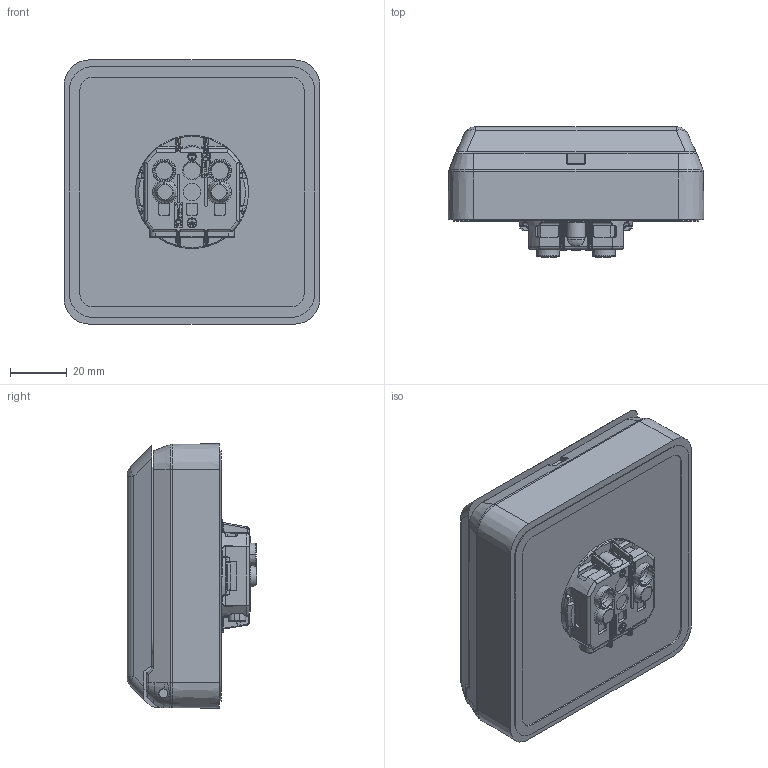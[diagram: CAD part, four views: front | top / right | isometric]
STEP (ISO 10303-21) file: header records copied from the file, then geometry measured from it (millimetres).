
FILE_DESCRIPTION((''),'2;1');
FILE_NAME('4971_DUMMY_SW0001','2018-08-24T',('Gisse'),('MENNEKES'),'PRO/ENGINEER BY PARAMETRIC TECHNOLOGY CORPORATION, 2015440','PRO/ENGINEER BY PARAMETRIC TECHNOLOGY CORPORATION, 2015440','');
FILE_SCHEMA(('AUTOMOTIVE_DESIGN { 1 0 10303 214 1 1 1 1 }'));
Products named in the file (1): 4971_DUMMY_SW0001
Bounding box: 90 x 45.72 x 93 mm (x, y, z)
Volume: 259960.7 mm3; surface area: 35235.4 mm2
Topology: 1 solids, 1 shells, 1131 faces, 3005 edges, 1902 vertices
Faces by surface type: plane 592, cylinder 261, bspline 135, cone 56, torus 45, sphere 26, extrusion 16
Entity records: 55184 total; most frequent: CARTESIAN_POINT 14899, ORIENTED_EDGE 6010, DIRECTION 4985, EDGE_CURVE 3005, FILL_AREA_STYLE_COLOUR 2148, FILL_AREA_STYLE 2148, SURFACE_STYLE_FILL_AREA 2148, SURFACE_SIDE_STYLE 2148
